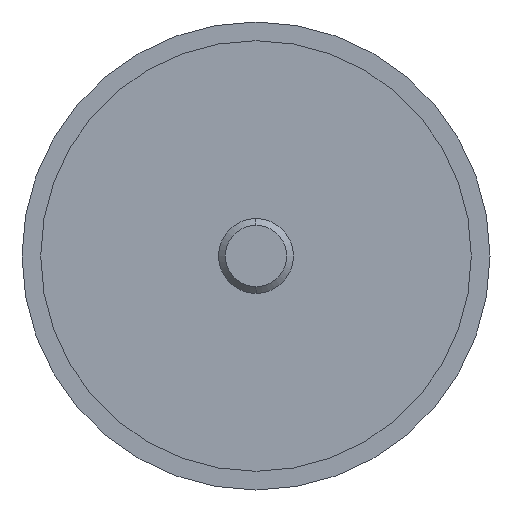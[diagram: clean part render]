
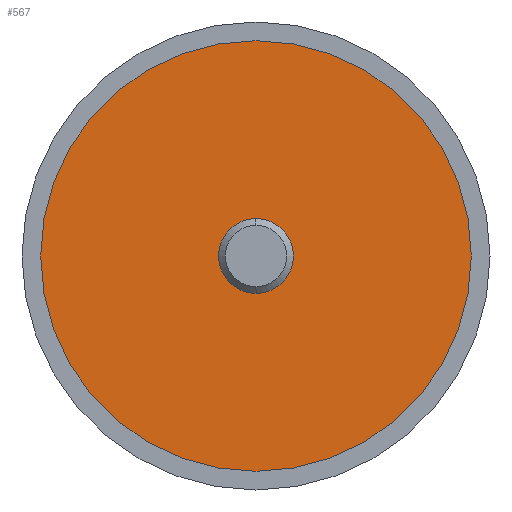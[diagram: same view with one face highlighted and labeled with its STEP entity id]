
A CAD part, left-side view. The second image highlights one B-rep face of the part: STEP entity #567.
In plain terms, the highlighted planar face has unit normal (-1, 0, 0).
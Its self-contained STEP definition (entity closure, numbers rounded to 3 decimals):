
#12 = DIRECTION ( 'NONE',  ( 0., 0., -1. ) ) ;
#66 = DIRECTION ( 'NONE',  ( -1., 0., 0. ) ) ;
#117 = PLANE ( 'NONE',  #632 ) ;
#142 = EDGE_CURVE ( 'NONE', #591, #197, #547, .T. ) ;
#150 = DIRECTION ( 'NONE',  ( -1., 0., 0. ) ) ;
#165 = ORIENTED_EDGE ( 'NONE', *, *, #142, .F. ) ;
#172 = FACE_OUTER_BOUND ( 'NONE', #321, .T. ) ;
#193 = CIRCLE ( 'NONE', #365, 34.5 ) ;
#197 = VERTEX_POINT ( 'NONE', #391 ) ;
#202 = DIRECTION ( 'NONE',  ( 0., 0., -1. ) ) ;
#212 = AXIS2_PLACEMENT_3D ( 'NONE', #333, #545, #482 ) ;
#213 = AXIS2_PLACEMENT_3D ( 'NONE', #404, #233, #453 ) ;
#224 = DIRECTION ( 'NONE',  ( 0., 0., 1. ) ) ;
#233 = DIRECTION ( 'NONE',  ( -1., 0., 0. ) ) ;
#258 = EDGE_LOOP ( 'NONE', ( #306, #165 ) ) ;
#278 = VERTEX_POINT ( 'NONE', #607 ) ;
#281 = EDGE_CURVE ( 'NONE', #425, #278, #577, .T. ) ;
#306 = ORIENTED_EDGE ( 'NONE', *, *, #325, .F. ) ;
#321 = EDGE_LOOP ( 'NONE', ( #527, #578 ) ) ;
#325 = EDGE_CURVE ( 'NONE', #197, #591, #424, .T. ) ;
#332 = CARTESIAN_POINT ( 'NONE',  ( -12.49, 0., -6. ) ) ;
#333 = CARTESIAN_POINT ( 'NONE',  ( -12.49, 0., 0. ) ) ;
#362 = CARTESIAN_POINT ( 'NONE',  ( -12.49, 0., 34.5 ) ) ;
#365 = AXIS2_PLACEMENT_3D ( 'NONE', #443, #66, #224 ) ;
#391 = CARTESIAN_POINT ( 'NONE',  ( -12.49, 0., 6. ) ) ;
#404 = CARTESIAN_POINT ( 'NONE',  ( -12.49, 0., 0. ) ) ;
#407 = CARTESIAN_POINT ( 'NONE',  ( -12.49, 0., 0. ) ) ;
#424 = CIRCLE ( 'NONE', #599, 6. ) ;
#425 = VERTEX_POINT ( 'NONE', #362 ) ;
#443 = CARTESIAN_POINT ( 'NONE',  ( -12.49, 0., 0. ) ) ;
#453 = DIRECTION ( 'NONE',  ( 0., 0., 1. ) ) ;
#482 = DIRECTION ( 'NONE',  ( 0., 0., -1. ) ) ;
#484 = DIRECTION ( 'NONE',  ( 1., 0., 0. ) ) ;
#527 = ORIENTED_EDGE ( 'NONE', *, *, #281, .T. ) ;
#538 = CARTESIAN_POINT ( 'NONE',  ( -12.49, 34.5, 0. ) ) ;
#545 = DIRECTION ( 'NONE',  ( -1., 0., 0. ) ) ;
#547 = CIRCLE ( 'NONE', #212, 6. ) ;
#567 = ADVANCED_FACE ( 'NONE', ( #172, #584 ), #117, .F. ) ;
#577 = CIRCLE ( 'NONE', #213, 34.5 ) ;
#578 = ORIENTED_EDGE ( 'NONE', *, *, #605, .T. ) ;
#584 = FACE_BOUND ( 'NONE', #258, .T. ) ;
#591 = VERTEX_POINT ( 'NONE', #332 ) ;
#599 = AXIS2_PLACEMENT_3D ( 'NONE', #407, #150, #202 ) ;
#605 = EDGE_CURVE ( 'NONE', #278, #425, #193, .T. ) ;
#607 = CARTESIAN_POINT ( 'NONE',  ( -12.49, 0., -34.5 ) ) ;
#632 = AXIS2_PLACEMENT_3D ( 'NONE', #538, #484, #12 ) ;
